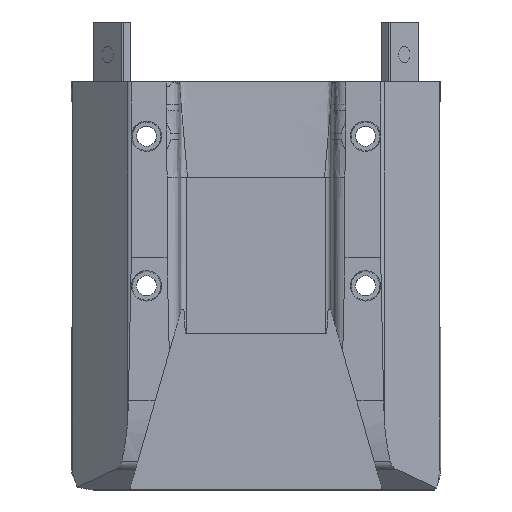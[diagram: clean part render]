
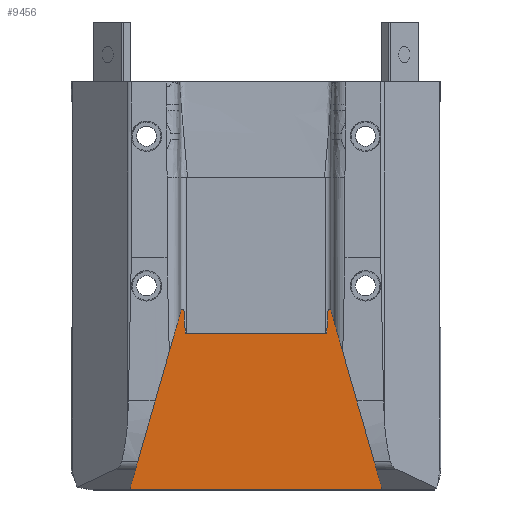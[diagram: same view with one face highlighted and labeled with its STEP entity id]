
A CAD part, top view. The second image highlights one B-rep face of the part: STEP entity #9456.
In plain terms, the highlighted planar face has unit normal (0, -0.018, 1).
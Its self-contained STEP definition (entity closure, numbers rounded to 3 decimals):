
#120=ELLIPSE('',#9850,114.597,2.);
#124=ELLIPSE('',#9899,114.597,2.);
#2338=ORIENTED_EDGE('',*,*,#4016,.T.);
#2339=ORIENTED_EDGE('',*,*,#4357,.T.);
#2340=ORIENTED_EDGE('',*,*,#3386,.T.);
#2341=ORIENTED_EDGE('',*,*,#3394,.T.);
#2342=ORIENTED_EDGE('',*,*,#3401,.T.);
#2343=ORIENTED_EDGE('',*,*,#4358,.T.);
#2344=ORIENTED_EDGE('',*,*,#4106,.T.);
#2345=ORIENTED_EDGE('',*,*,#3782,.F.);
#3386=EDGE_CURVE('',#4771,#4770,#5706,.T.);
#3394=EDGE_CURVE('',#4770,#4777,#5710,.T.);
#3401=EDGE_CURVE('',#4777,#4783,#5713,.T.);
#3782=EDGE_CURVE('',#5106,#5108,#5995,.T.);
#4016=EDGE_CURVE('',#5106,#5284,#120,.F.);
#4106=EDGE_CURVE('',#5332,#5108,#124,.F.);
#4357=EDGE_CURVE('',#5284,#4771,#6365,.T.);
#4358=EDGE_CURVE('',#4783,#5332,#6366,.T.);
#4770=VERTEX_POINT('',#12826);
#4771=VERTEX_POINT('',#12828);
#4777=VERTEX_POINT('',#12842);
#4783=VERTEX_POINT('',#12856);
#5106=VERTEX_POINT('',#13955);
#5108=VERTEX_POINT('',#13958);
#5284=VERTEX_POINT('',#15138);
#5332=VERTEX_POINT('',#15349);
#5706=LINE('',#12827,#6673);
#5710=LINE('',#12843,#6677);
#5713=LINE('',#12857,#6680);
#5995=LINE('',#13957,#6962);
#6365=LINE('',#16100,#7332);
#6366=LINE('',#16102,#7333);
#6673=VECTOR('',#10421,1000.);
#6677=VECTOR('',#10435,1000.);
#6680=VECTOR('',#10448,1000.);
#6962=VECTOR('',#10926,1000.);
#7332=VECTOR('',#11932,1000.);
#7333=VECTOR('',#11935,1000.);
#7948=EDGE_LOOP('',(#2338,#2339,#2340,#2341,#2342,#2343,#2344,#2345));
#8524=FACE_BOUND('',#7948,.T.);
#8995=PLANE('',#10107);
#9456=ADVANCED_FACE('',(#8524),#8995,.T.);
#9850=AXIS2_PLACEMENT_3D('',#15139,#11168,#11169);
#9899=AXIS2_PLACEMENT_3D('',#15351,#11337,#11338);
#10107=AXIS2_PLACEMENT_3D('',#16103,#11936,#11937);
#10421=DIRECTION('',(-0.275,-0.961,-0.017));
#10435=DIRECTION('',(1.,0.,0.));
#10448=DIRECTION('',(-0.275,0.961,0.017));
#10926=DIRECTION('',(1.,0.,0.));
#11168=DIRECTION('',(0.,-0.017,1.));
#11169=DIRECTION('',(0.,1.,0.017));
#11337=DIRECTION('',(0.,-0.017,1.));
#11338=DIRECTION('',(0.,1.,0.017));
#11932=DIRECTION('',(-1.,0.,0.));
#11935=DIRECTION('',(-1.,0.,0.));
#11936=DIRECTION('',(0.,-0.017,1.));
#11937=DIRECTION('',(0.,-1.,-0.017));
#12826=CARTESIAN_POINT('',(-46.393,0.362,2.003));
#12827=CARTESIAN_POINT('',(-27.535,66.357,3.155));
#12828=CARTESIAN_POINT('',(-27.535,66.357,3.155));
#12842=CARTESIAN_POINT('',(46.393,0.362,2.003));
#12843=CARTESIAN_POINT('',(-46.393,0.362,2.003));
#12856=CARTESIAN_POINT('',(27.535,66.357,3.155));
#12857=CARTESIAN_POINT('',(46.393,0.362,2.003));
#13955=CARTESIAN_POINT('',(-25.722,57.471,3.));
#13957=CARTESIAN_POINT('',(-25.722,57.471,3.));
#13958=CARTESIAN_POINT('',(25.722,57.471,3.));
#15138=CARTESIAN_POINT('',(-26.494,66.357,3.155));
#15139=CARTESIAN_POINT('',(-25.722,172.051,5.));
#15349=CARTESIAN_POINT('',(26.494,66.357,3.155));
#15351=CARTESIAN_POINT('',(25.722,172.051,5.));
#16100=CARTESIAN_POINT('',(27.535,66.357,3.155));
#16102=CARTESIAN_POINT('',(27.535,66.357,3.155));
#16103=CARTESIAN_POINT('',(0.,-0.035,1.996));
